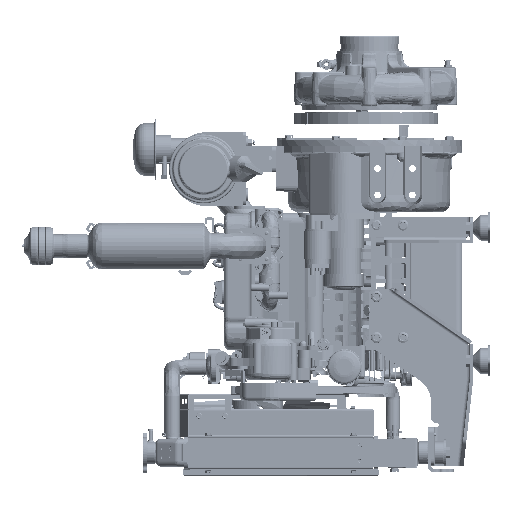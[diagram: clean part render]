
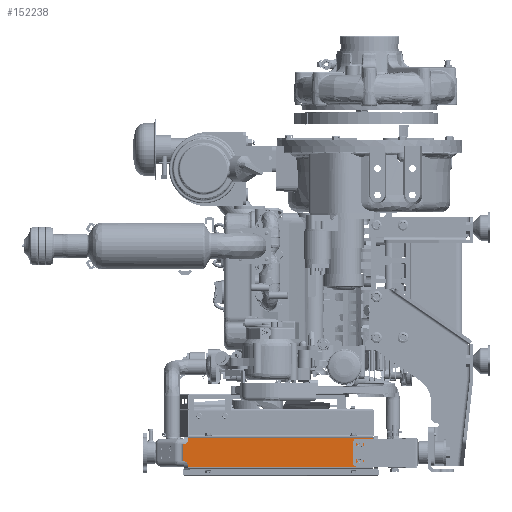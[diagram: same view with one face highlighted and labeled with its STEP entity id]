
A CAD part, left-side view. The second image highlights one B-rep face of the part: STEP entity #152238.
In plain terms, the highlighted planar face has unit normal (-1, 0, 0).
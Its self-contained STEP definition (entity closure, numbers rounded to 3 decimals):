
#1999 = CIRCLE ( 'NONE', #261154, 4.37 ) ;
#12095 = CARTESIAN_POINT ( 'NONE',  ( -210.915, -17.53, -317.46 ) ) ;
#23676 = EDGE_LOOP ( 'NONE', ( #95440, #582424 ) ) ;
#24840 = VERTEX_POINT ( 'NONE', #594612 ) ;
#28110 = DIRECTION ( 'NONE',  ( 1., 0., 0. ) ) ;
#28731 = CARTESIAN_POINT ( 'NONE',  ( -210.915, 17.6, -273.39 ) ) ;
#28777 = ORIENTED_EDGE ( 'NONE', *, *, #577854, .T. ) ;
#67138 = DIRECTION ( 'NONE',  ( 0., 0., 1. ) ) ;
#79169 = CARTESIAN_POINT ( 'NONE',  ( -210.915, 347.8, -261.32 ) ) ;
#83760 = DIRECTION ( 'NONE',  ( 0., 0., 1. ) ) ;
#85499 = ORIENTED_EDGE ( 'NONE', *, *, #674289, .T. ) ;
#93456 = CARTESIAN_POINT ( 'NONE',  ( -210.915, 357.53, -305.657 ) ) ;
#95440 = ORIENTED_EDGE ( 'NONE', *, *, #472032, .T. ) ;
#98310 = AXIS2_PLACEMENT_3D ( 'NONE', #573600, #245841, #628483 ) ;
#101331 = VERTEX_POINT ( 'NONE', #567284 ) ;
#102535 = VECTOR ( 'NONE', #276074, 1000. ) ;
#105955 = LINE ( 'NONE', #474763, #670464 ) ;
#109175 = EDGE_CURVE ( 'NONE', #332268, #251542, #119496, .T. ) ;
#119348 = ORIENTED_EDGE ( 'NONE', *, *, #167924, .T. ) ;
#119496 = LINE ( 'NONE', #548784, #102535 ) ;
#125119 = ORIENTED_EDGE ( 'NONE', *, *, #394367, .T. ) ;
#128943 = DIRECTION ( 'NONE',  ( 0., 0., -1. ) ) ;
#134007 = DIRECTION ( 'NONE',  ( 0., 1., 0. ) ) ;
#134288 = CARTESIAN_POINT ( 'NONE',  ( -210.915, 17.6, -305.39 ) ) ;
#134720 = DIRECTION ( 'NONE',  ( 0., 0., -1. ) ) ;
#139146 = AXIS2_PLACEMENT_3D ( 'NONE', #134288, #517027, #189345 ) ;
#139933 = EDGE_CURVE ( 'NONE', #220594, #264799, #273084, .T. ) ;
#141681 = VECTOR ( 'NONE', #365143, 1000. ) ;
#147219 = CARTESIAN_POINT ( 'NONE',  ( -210.915, 357.8, -263.126 ) ) ;
#152238 = ADVANCED_FACE ( 'NONE', ( #390670, #536205, #681417 ), #484251, .T. ) ;
#158856 = LINE ( 'NONE', #254952, #141681 ) ;
#161009 = CARTESIAN_POINT ( 'NONE',  ( -210.915, 17.6, -273.39 ) ) ;
#163820 = CARTESIAN_POINT ( 'NONE',  ( -210.915, 357.8, -315.654 ) ) ;
#166680 = VERTEX_POINT ( 'NONE', #696185 ) ;
#167924 = EDGE_CURVE ( 'NONE', #425694, #251542, #506264, .T. ) ;
#189345 = DIRECTION ( 'NONE',  ( 0., 0., 1. ) ) ;
#189392 = CARTESIAN_POINT ( 'NONE',  ( -210.915, 347.8, -261.32 ) ) ;
#193945 = CARTESIAN_POINT ( 'NONE',  ( -210.915, -17.8, -315.654 ) ) ;
#202217 = DIRECTION ( 'NONE',  ( 0., 0., 1. ) ) ;
#203550 = VECTOR ( 'NONE', #584915, 1000. ) ;
#204143 = VECTOR ( 'NONE', #134007, 1000. ) ;
#216065 = DIRECTION ( 'NONE',  ( 0., 0., 1. ) ) ;
#218174 = EDGE_CURVE ( 'NONE', #24840, #241646, #274858, .T. ) ;
#218847 = DIRECTION ( 'NONE',  ( 0., 0., 1. ) ) ;
#220594 = VERTEX_POINT ( 'NONE', #389743 ) ;
#225546 = EDGE_CURVE ( 'NONE', #631927, #166680, #388939, .T. ) ;
#232262 = LINE ( 'NONE', #242401, #343529 ) ;
#241646 = VERTEX_POINT ( 'NONE', #525425 ) ;
#242401 = CARTESIAN_POINT ( 'NONE',  ( -210.915, 357.53, -317.46 ) ) ;
#245841 = DIRECTION ( 'NONE',  ( 1., 0., 0. ) ) ;
#248954 = DIRECTION ( 'NONE',  ( 0., 0., 1. ) ) ;
#251542 = VERTEX_POINT ( 'NONE', #422315 ) ;
#254739 = CARTESIAN_POINT ( 'NONE',  ( -210.915, 347.8, -263.126 ) ) ;
#254952 = CARTESIAN_POINT ( 'NONE',  ( -210.915, 347.8, -267.223 ) ) ;
#256841 = DIRECTION ( 'NONE',  ( 0., 0., 1. ) ) ;
#257863 = CARTESIAN_POINT ( 'NONE',  ( -210.915, -7.8, -315.654 ) ) ;
#261154 = AXIS2_PLACEMENT_3D ( 'NONE', #355801, #28110, #410686 ) ;
#264799 = VERTEX_POINT ( 'NONE', #416629 ) ;
#266472 = CARTESIAN_POINT ( 'NONE',  ( -210.915, 347.8, -317.46 ) ) ;
#270692 = CIRCLE ( 'NONE', #538914, 10. ) ;
#273084 = LINE ( 'NONE', #293977, #709448 ) ;
#274858 = CIRCLE ( 'NONE', #139146, 4.37 ) ;
#276074 = DIRECTION ( 'NONE',  ( 0., 0., 1. ) ) ;
#280765 = DIRECTION ( 'NONE',  ( -1., 0., 0. ) ) ;
#290648 = VECTOR ( 'NONE', #67138, 1000. ) ;
#293977 = CARTESIAN_POINT ( 'NONE',  ( -210.915, -7.8, -267.223 ) ) ;
#315993 = ORIENTED_EDGE ( 'NONE', *, *, #225546, .T. ) ;
#319123 = CIRCLE ( 'NONE', #98310, 10. ) ;
#332268 = VERTEX_POINT ( 'NONE', #266472 ) ;
#343529 = VECTOR ( 'NONE', #134720, 1000. ) ;
#355801 = CARTESIAN_POINT ( 'NONE',  ( -210.915, 17.6, -305.39 ) ) ;
#362875 = VERTEX_POINT ( 'NONE', #254739 ) ;
#365143 = DIRECTION ( 'NONE',  ( 0., 0., -1. ) ) ;
#366334 = LINE ( 'NONE', #529905, #203550 ) ;
#385846 = CARTESIAN_POINT ( 'NONE',  ( -210.915, -17.53, -273.123 ) ) ;
#388939 = CIRCLE ( 'NONE', #432635, 10. ) ;
#389743 = CARTESIAN_POINT ( 'NONE',  ( -210.915, -7.8, -261.32 ) ) ;
#390670 = FACE_BOUND ( 'NONE', #432697, .T. ) ;
#394367 = EDGE_CURVE ( 'NONE', #166680, #398021, #709794, .T. ) ;
#398021 = VERTEX_POINT ( 'NONE', #385846 ) ;
#406005 = ORIENTED_EDGE ( 'NONE', *, *, #139933, .F. ) ;
#410686 = DIRECTION ( 'NONE',  ( 0., 0., 1. ) ) ;
#411311 = DIRECTION ( 'NONE',  ( 1., 0., 0. ) ) ;
#413563 = AXIS2_PLACEMENT_3D ( 'NONE', #28731, #411311, #83760 ) ;
#414730 = CARTESIAN_POINT ( 'NONE',  ( -210.915, -7.8, -317.46 ) ) ;
#416629 = CARTESIAN_POINT ( 'NONE',  ( -210.915, -7.8, -263.126 ) ) ;
#422315 = CARTESIAN_POINT ( 'NONE',  ( -210.915, 347.8, -315.654 ) ) ;
#425694 = VERTEX_POINT ( 'NONE', #93456 ) ;
#429052 = VERTEX_POINT ( 'NONE', #666741 ) ;
#432635 = AXIS2_PLACEMENT_3D ( 'NONE', #193945, #576655, #248954 ) ;
#432697 = EDGE_LOOP ( 'NONE', ( #700098, #479264 ) ) ;
#462874 = VERTEX_POINT ( 'NONE', #414730 ) ;
#464975 = EDGE_CURVE ( 'NONE', #596742, #362875, #158856, .T. ) ;
#472032 = EDGE_CURVE ( 'NONE', #602679, #101331, #594899, .T. ) ;
#474763 = CARTESIAN_POINT ( 'NONE',  ( -210.915, -7.8, -311.557 ) ) ;
#479264 = ORIENTED_EDGE ( 'NONE', *, *, #564991, .T. ) ;
#484251 = PLANE ( 'NONE',  #511688 ) ;
#498192 = EDGE_CURVE ( 'NONE', #398021, #264799, #319123, .T. ) ;
#504476 = ORIENTED_EDGE ( 'NONE', *, *, #109175, .F. ) ;
#506264 = CIRCLE ( 'NONE', #652046, 10. ) ;
#511688 = AXIS2_PLACEMENT_3D ( 'NONE', #608458, #280765, #663328 ) ;
#514374 = ORIENTED_EDGE ( 'NONE', *, *, #589072, .T. ) ;
#514927 = CARTESIAN_POINT ( 'NONE',  ( -210.915, 17.6, -269.02 ) ) ;
#517027 = DIRECTION ( 'NONE',  ( 1., 0., 0. ) ) ;
#525425 = CARTESIAN_POINT ( 'NONE',  ( -210.915, 17.6, -309.76 ) ) ;
#529841 = DIRECTION ( 'NONE',  ( 1., 0., 0. ) ) ;
#529905 = CARTESIAN_POINT ( 'NONE',  ( -210.915, 347.8, -317.46 ) ) ;
#536205 = FACE_BOUND ( 'NONE', #23676, .T. ) ;
#538914 = AXIS2_PLACEMENT_3D ( 'NONE', #147219, #529841, #202217 ) ;
#543649 = DIRECTION ( 'NONE',  ( 1., 0., 0. ) ) ;
#546381 = DIRECTION ( 'NONE',  ( 1., 0., 0. ) ) ;
#548784 = CARTESIAN_POINT ( 'NONE',  ( -210.915, 347.8, -311.557 ) ) ;
#564991 = EDGE_CURVE ( 'NONE', #241646, #24840, #1999, .T. ) ;
#567284 = CARTESIAN_POINT ( 'NONE',  ( -210.915, 17.6, -277.76 ) ) ;
#573600 = CARTESIAN_POINT ( 'NONE',  ( -210.915, -17.8, -263.126 ) ) ;
#574208 = EDGE_CURVE ( 'NONE', #101331, #602679, #635337, .T. ) ;
#576655 = DIRECTION ( 'NONE',  ( 1., 0., 0. ) ) ;
#577854 = EDGE_CURVE ( 'NONE', #362875, #429052, #270692, .T. ) ;
#582424 = ORIENTED_EDGE ( 'NONE', *, *, #574208, .T. ) ;
#584915 = DIRECTION ( 'NONE',  ( 0., -1., 0. ) ) ;
#586901 = AXIS2_PLACEMENT_3D ( 'NONE', #161009, #543649, #216065 ) ;
#588197 = ORIENTED_EDGE ( 'NONE', *, *, #464975, .T. ) ;
#589072 = EDGE_CURVE ( 'NONE', #462874, #631927, #105955, .T. ) ;
#592097 = ORIENTED_EDGE ( 'NONE', *, *, #696889, .T. ) ;
#593347 = ORIENTED_EDGE ( 'NONE', *, *, #692360, .T. ) ;
#594612 = CARTESIAN_POINT ( 'NONE',  ( -210.915, 17.6, -301.02 ) ) ;
#594899 = CIRCLE ( 'NONE', #413563, 4.37 ) ;
#596742 = VERTEX_POINT ( 'NONE', #189392 ) ;
#602679 = VERTEX_POINT ( 'NONE', #514927 ) ;
#608458 = CARTESIAN_POINT ( 'NONE',  ( -210.915, 347.8, -317.46 ) ) ;
#628483 = DIRECTION ( 'NONE',  ( 0., 0., 1. ) ) ;
#631927 = VERTEX_POINT ( 'NONE', #257863 ) ;
#635337 = CIRCLE ( 'NONE', #586901, 4.37 ) ;
#640552 = LINE ( 'NONE', #79169, #204143 ) ;
#652046 = AXIS2_PLACEMENT_3D ( 'NONE', #163820, #546381, #218847 ) ;
#655575 = EDGE_LOOP ( 'NONE', ( #28777, #85499, #119348, #504476, #593347, #514374, #315993, #125119, #694589, #406005, #592097, #588197 ) ) ;
#663328 = DIRECTION ( 'NONE',  ( 0., 0., 1. ) ) ;
#666741 = CARTESIAN_POINT ( 'NONE',  ( -210.915, 357.53, -273.123 ) ) ;
#670464 = VECTOR ( 'NONE', #256841, 1000. ) ;
#674289 = EDGE_CURVE ( 'NONE', #429052, #425694, #232262, .T. ) ;
#681417 = FACE_OUTER_BOUND ( 'NONE', #655575, .T. ) ;
#692360 = EDGE_CURVE ( 'NONE', #332268, #462874, #366334, .T. ) ;
#694589 = ORIENTED_EDGE ( 'NONE', *, *, #498192, .T. ) ;
#696185 = CARTESIAN_POINT ( 'NONE',  ( -210.915, -17.53, -305.657 ) ) ;
#696889 = EDGE_CURVE ( 'NONE', #220594, #596742, #640552, .T. ) ;
#700098 = ORIENTED_EDGE ( 'NONE', *, *, #218174, .T. ) ;
#709448 = VECTOR ( 'NONE', #128943, 1000. ) ;
#709794 = LINE ( 'NONE', #12095, #290648 ) ;
